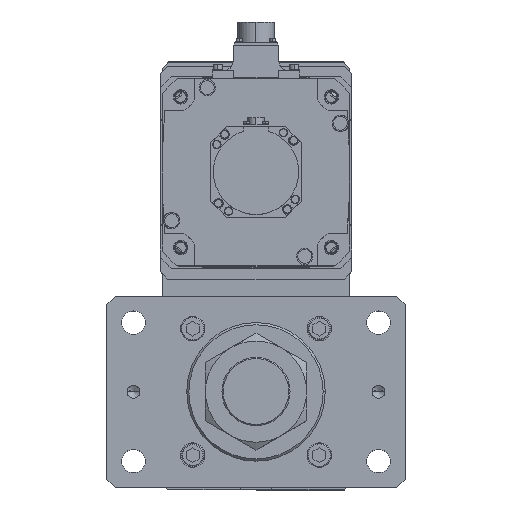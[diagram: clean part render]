
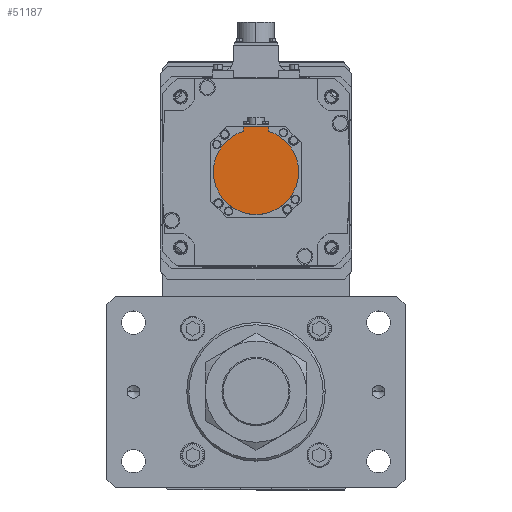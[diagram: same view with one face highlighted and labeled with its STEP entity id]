
A CAD part, top view. The second image highlights one B-rep face of the part: STEP entity #51187.
In plain terms, the highlighted planar face has unit normal (0, 0, 1) as drawn and (0, 0, -1) by its records, which use the part's own axes.
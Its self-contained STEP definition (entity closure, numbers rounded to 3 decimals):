
#2538 = EDGE_CURVE ( 'NONE', #13717, #15862, #27472, .T. ) ;
#2810 = DIRECTION ( 'NONE',  ( 0., 0., 1. ) ) ;
#2937 = ORIENTED_EDGE ( 'NONE', *, *, #24116, .T. ) ;
#3603 = VERTEX_POINT ( 'NONE', #14092 ) ;
#5206 = DIRECTION ( 'NONE',  ( 0., 0., 1. ) ) ;
#7838 = DIRECTION ( 'NONE',  ( 0., 0., 1. ) ) ;
#10030 = AXIS2_PLACEMENT_3D ( 'NONE', #29689, #5206, #45828 ) ;
#11627 = CIRCLE ( 'NONE', #10030, 40. ) ;
#12446 = CARTESIAN_POINT ( 'NONE',  ( 0., -42.5, -178.5 ) ) ;
#13717 = VERTEX_POINT ( 'NONE', #27325 ) ;
#14092 = CARTESIAN_POINT ( 'NONE',  ( -40., 0., -178.5 ) ) ;
#14368 = CARTESIAN_POINT ( 'NONE',  ( 12., -42.5, -178.5 ) ) ;
#15515 = EDGE_CURVE ( 'NONE', #3603, #31705, #46809, .T. ) ;
#15862 = VERTEX_POINT ( 'NONE', #32943 ) ;
#16332 = CARTESIAN_POINT ( 'NONE',  ( 0., -1.249, -178.5 ) ) ;
#16455 = CARTESIAN_POINT ( 'NONE',  ( 0., 0., -178.5 ) ) ;
#18301 = LINE ( 'NONE', #33405, #37310 ) ;
#19490 = DIRECTION ( 'NONE',  ( 1., 0., 0. ) ) ;
#20262 = DIRECTION ( 'NONE',  ( 0., 1., 0. ) ) ;
#21229 = ORIENTED_EDGE ( 'NONE', *, *, #40223, .F. ) ;
#21527 = DIRECTION ( 'NONE',  ( 0., 1., 0. ) ) ;
#22032 = AXIS2_PLACEMENT_3D ( 'NONE', #27499, #2810, #19490 ) ;
#22982 = LINE ( 'NONE', #12446, #43295 ) ;
#23521 = AXIS2_PLACEMENT_3D ( 'NONE', #16332, #7838, #48796 ) ;
#23553 = ORIENTED_EDGE ( 'NONE', *, *, #2538, .F. ) ;
#23785 = CARTESIAN_POINT ( 'NONE',  ( -12., -42.5, -178.5 ) ) ;
#24116 = EDGE_CURVE ( 'NONE', #42372, #32893, #22982, .T. ) ;
#25654 = EDGE_LOOP ( 'NONE', ( #34138, #36987, #48003, #23553, #21229, #2937 ) ) ;
#26011 = LINE ( 'NONE', #48609, #45020 ) ;
#27325 = CARTESIAN_POINT ( 'NONE',  ( 12., -38.158, -178.5 ) ) ;
#27472 = CIRCLE ( 'NONE', #45506, 40. ) ;
#27499 = CARTESIAN_POINT ( 'NONE',  ( 0., 0., -178.5 ) ) ;
#27984 = EDGE_CURVE ( 'NONE', #15862, #3603, #11627, .T. ) ;
#28293 = FACE_OUTER_BOUND ( 'NONE', #25654, .T. ) ;
#29689 = CARTESIAN_POINT ( 'NONE',  ( 0., 0., -178.5 ) ) ;
#31232 = EDGE_CURVE ( 'NONE', #32893, #31705, #26011, .T. ) ;
#31705 = VERTEX_POINT ( 'NONE', #50698 ) ;
#32647 = PLANE ( 'NONE',  #23521 ) ;
#32893 = VERTEX_POINT ( 'NONE', #23785 ) ;
#32943 = CARTESIAN_POINT ( 'NONE',  ( 40., 0., -178.5 ) ) ;
#33405 = CARTESIAN_POINT ( 'NONE',  ( 12., -1.249, -178.5 ) ) ;
#33487 = DIRECTION ( 'NONE',  ( 0., 0., 1. ) ) ;
#34138 = ORIENTED_EDGE ( 'NONE', *, *, #31232, .T. ) ;
#36376 = DIRECTION ( 'NONE',  ( -1., 0., 0. ) ) ;
#36987 = ORIENTED_EDGE ( 'NONE', *, *, #15515, .F. ) ;
#37310 = VECTOR ( 'NONE', #21527, 1000. ) ;
#40223 = EDGE_CURVE ( 'NONE', #42372, #13717, #18301, .T. ) ;
#42372 = VERTEX_POINT ( 'NONE', #14368 ) ;
#43295 = VECTOR ( 'NONE', #36376, 1000. ) ;
#45020 = VECTOR ( 'NONE', #20262, 1000. ) ;
#45506 = AXIS2_PLACEMENT_3D ( 'NONE', #16455, #33487, #49285 ) ;
#45828 = DIRECTION ( 'NONE',  ( 1., 0., 0. ) ) ;
#46809 = CIRCLE ( 'NONE', #22032, 40. ) ;
#48003 = ORIENTED_EDGE ( 'NONE', *, *, #27984, .F. ) ;
#48609 = CARTESIAN_POINT ( 'NONE',  ( -12., -40.329, -178.5 ) ) ;
#48796 = DIRECTION ( 'NONE',  ( 1., 0., 0. ) ) ;
#49285 = DIRECTION ( 'NONE',  ( 1., 0., 0. ) ) ;
#50698 = CARTESIAN_POINT ( 'NONE',  ( -12., -38.158, -178.5 ) ) ;
#51187 = ADVANCED_FACE ( 'NONE', ( #28293 ), #32647, .F. ) ;
